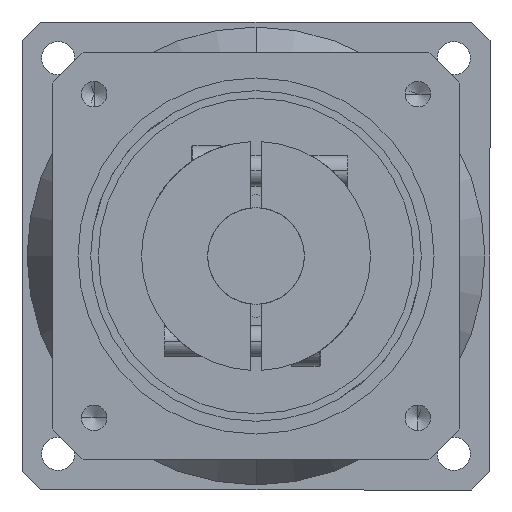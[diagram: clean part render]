
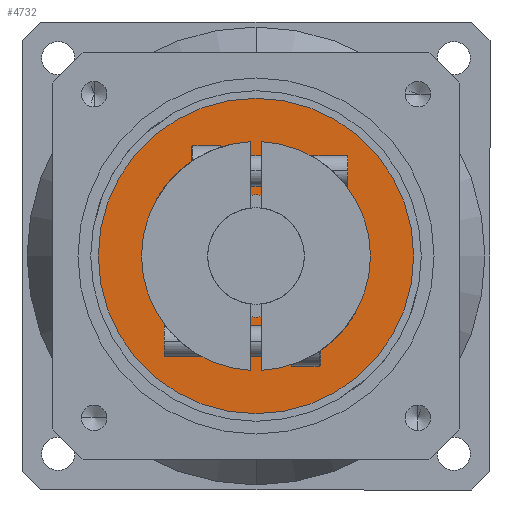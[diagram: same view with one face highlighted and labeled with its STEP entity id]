
A CAD part, front view. The second image highlights one B-rep face of the part: STEP entity #4732.
In plain terms, the highlighted planar face has unit normal (0, -1, 0).
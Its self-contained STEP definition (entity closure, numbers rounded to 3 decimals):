
#64 = CARTESIAN_POINT ( 'NONE',  ( 0., -97.6, 12. ) ) ;
#169 = ORIENTED_EDGE ( 'NONE', *, *, #4800, .F. ) ;
#277 = VERTEX_POINT ( 'NONE', #2827 ) ;
#287 = CARTESIAN_POINT ( 'NONE',  ( 0., -97.6, 31. ) ) ;
#351 = DIRECTION ( 'NONE',  ( 0., 0., 1. ) ) ;
#367 = DIRECTION ( 'NONE',  ( 0., 1., 0. ) ) ;
#368 = CARTESIAN_POINT ( 'NONE',  ( 0., -97.6, 0. ) ) ;
#549 = CIRCLE ( 'NONE', #3184, 12. ) ;
#667 = CARTESIAN_POINT ( 'NONE',  ( 0., -97.6, 0. ) ) ;
#917 = CARTESIAN_POINT ( 'NONE',  ( 0., -97.6, 0. ) ) ;
#1206 = CIRCLE ( 'NONE', #5080, 31. ) ;
#1515 = DIRECTION ( 'NONE',  ( 0., 1., 0. ) ) ;
#1567 = EDGE_LOOP ( 'NONE', ( #4018, #2267 ) ) ;
#1954 = ORIENTED_EDGE ( 'NONE', *, *, #5088, .F. ) ;
#1979 = FACE_OUTER_BOUND ( 'NONE', #3557, .T. ) ;
#2168 = DIRECTION ( 'NONE',  ( 0., 1., 0. ) ) ;
#2248 = AXIS2_PLACEMENT_3D ( 'NONE', #64, #2168, #4243 ) ;
#2267 = ORIENTED_EDGE ( 'NONE', *, *, #4652, .T. ) ;
#2310 = CARTESIAN_POINT ( 'NONE',  ( 0., -97.6, 0. ) ) ;
#2324 = FACE_BOUND ( 'NONE', #1567, .T. ) ;
#2681 = VERTEX_POINT ( 'NONE', #3727 ) ;
#2827 = CARTESIAN_POINT ( 'NONE',  ( 0., -97.6, -12. ) ) ;
#3083 = DIRECTION ( 'NONE',  ( 0., 0., 1. ) ) ;
#3105 = CIRCLE ( 'NONE', #3697, 12. ) ;
#3184 = AXIS2_PLACEMENT_3D ( 'NONE', #667, #1515, #4402 ) ;
#3343 = AXIS2_PLACEMENT_3D ( 'NONE', #2310, #4381, #3971 ) ;
#3438 = PLANE ( 'NONE',  #2248 ) ;
#3557 = EDGE_LOOP ( 'NONE', ( #169, #1954 ) ) ;
#3626 = CARTESIAN_POINT ( 'NONE',  ( 0., -97.6, 12. ) ) ;
#3697 = AXIS2_PLACEMENT_3D ( 'NONE', #368, #367, #351 ) ;
#3727 = CARTESIAN_POINT ( 'NONE',  ( 0., -97.6, -31. ) ) ;
#3971 = DIRECTION ( 'NONE',  ( 0., 0., 1. ) ) ;
#4018 = ORIENTED_EDGE ( 'NONE', *, *, #4911, .T. ) ;
#4085 = CIRCLE ( 'NONE', #3343, 31. ) ;
#4243 = DIRECTION ( 'NONE',  ( 0., 0., 1. ) ) ;
#4381 = DIRECTION ( 'NONE',  ( 0., 1., 0. ) ) ;
#4402 = DIRECTION ( 'NONE',  ( 0., 0., 1. ) ) ;
#4652 = EDGE_CURVE ( 'NONE', #277, #5240, #3105, .T. ) ;
#4658 = DIRECTION ( 'NONE',  ( 0., 1., 0. ) ) ;
#4678 = VERTEX_POINT ( 'NONE', #287 ) ;
#4732 = ADVANCED_FACE ( 'NONE', ( #1979, #2324 ), #3438, .F. ) ;
#4800 = EDGE_CURVE ( 'NONE', #4678, #2681, #1206, .T. ) ;
#4911 = EDGE_CURVE ( 'NONE', #5240, #277, #549, .T. ) ;
#5080 = AXIS2_PLACEMENT_3D ( 'NONE', #917, #4658, #3083 ) ;
#5088 = EDGE_CURVE ( 'NONE', #2681, #4678, #4085, .T. ) ;
#5240 = VERTEX_POINT ( 'NONE', #3626 ) ;
